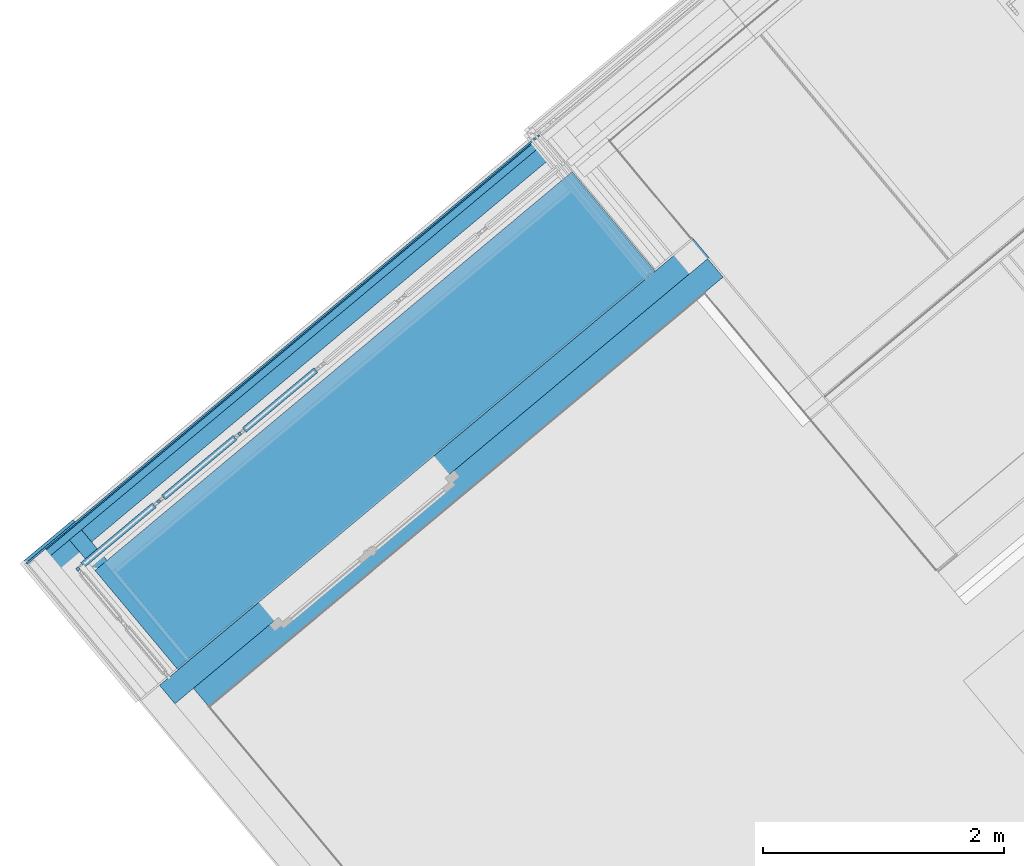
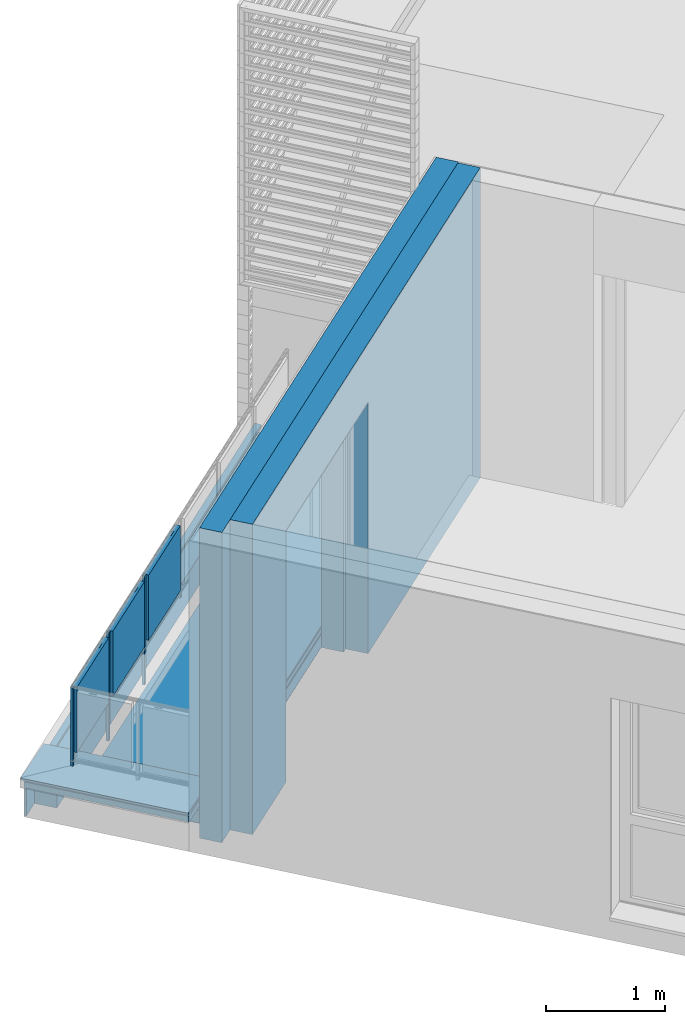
# One storey, part 18 of 50: 19 building element parts, 1 opening, 5 elements without a shape of their own.
"""IFC4 building model written with IfcOpenShell, lengths in metres."""

from ifc_helpers import new_model, entity, si_unit, converted_unit, derived_unit, direction, frame, origin_with_axes, place, context, subcontext, project, spatial, polygons, material, type_object, element, aggregate, save


model = new_model("IFC4")

# Units and contexts
model_context = context("Model", 3, precision=1e-05, world=origin_with_axes(), true_north=direction((0.0, 1.0)))
body_context = subcontext(model_context, "Body", "Model", "MODEL_VIEW")
ifc_project = project(units=[si_unit("LENGTHUNIT", "METRE"), si_unit("AREAUNIT", "SQUARE_METRE"), si_unit("VOLUMEUNIT", "CUBIC_METRE"), converted_unit("PLANEANGLEUNIT", "DEGREE", entity("IfcPlaneAngleMeasure", 0.0174532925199), si_unit("PLANEANGLEUNIT", "RADIAN"), dimensions=[0, 0, 0, 0, 0, 0, 0]), converted_unit("TIMEUNIT", "Year", entity("IfcTimeMeasure", 31556926.0), si_unit("TIMEUNIT", "SECOND"), dimensions=[0, 0, 1, 0, 0, 0, 0]), si_unit("MASSUNIT", "GRAM", prefix="KILO"), si_unit("THERMODYNAMICTEMPERATUREUNIT", "DEGREE_CELSIUS"), si_unit("LUMINOUSINTENSITYUNIT", "LUMEN"), si_unit("ENERGYUNIT", "JOULE", prefix="MEGA"), derived_unit("THERMALCONDUCTANCEUNIT", [(si_unit("POWERUNIT", "WATT"), 1), (si_unit("LENGTHUNIT", "METRE"), -1), (si_unit("THERMODYNAMICTEMPERATUREUNIT", "KELVIN"), -1)]), derived_unit("SPECIFICHEATCAPACITYUNIT", [(si_unit("ENERGYUNIT", "JOULE"), 1), (si_unit("MASSUNIT", "GRAM", prefix="KILO"), -1), (si_unit("THERMODYNAMICTEMPERATUREUNIT", "KELVIN"), -1)]), derived_unit("MASSDENSITYUNIT", [(si_unit("MASSUNIT", "GRAM", prefix="KILO"), 1), (si_unit("VOLUMEUNIT", "CUBIC_METRE"), -1)])], contexts=[model_context])

# Site, building, storey
site_placement = place(None, frame((-0.00153261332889, -0.00661245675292, 0.0), z_axis=(0.0, 0.0, 1.0), x_axis=(1.0, 0.0, 0.0)))
site = spatial("IfcSite", under=ifc_project, at=site_placement, Name="Gelände", CompositionType="ELEMENT")
building_placement = place(site_placement, origin_with_axes())
building = spatial("IfcBuilding", under=site, at=building_placement, Name="Gebäude", CompositionType="ELEMENT")
storey_placement = place(building_placement, frame((0.0, 0.0, 8.66), z_axis=(0.0, 0.0, 1.0), x_axis=(1.0, 0.0, 0.0)))
storey = spatial("IfcBuildingStorey", under=building, at=storey_placement, Name="DG2", CompositionType="ELEMENT", Elevation=8.66)

# Wall, building element parts
wall_type_1 = type_object("IfcWallType", Name="Bauteil - Attika Terrasse 1.DG 574 x 410", PredefinedType="NOTDEFINED")
wall_1_placement = place(storey_placement, frame((-7.57260314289, 18.0246792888, -0.2), z_axis=(0.0, 0.0, 1.0), x_axis=(-0.641209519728, 0.767365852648, 0.0)))
wall_1 = element("IfcWall", 1, at=wall_1_placement, inside=storey, type_object=wall_type_1, Name="Wand-004", PredefinedType="NOTDEFINED")
ifc_material_1 = material(Name="Brettschichtholz")
building_element_part_1_placement = place(wall_1_placement, origin_with_axes())
building_element_part_1 = element("IfcBuildingElementPart", 2, at=building_element_part_1_placement, material=ifc_material_1, Name="Brettschichtholz", PredefinedType="NOTDEFINED", context=body_context, shape_type="Tessellation", body=[
    polygons([(1.4745376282, -0.200000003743, 0.519224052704), (1.47453764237, -0.200000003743, 0.559999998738), (0.0, -0.200000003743, 0.559999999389), (0.0, -0.200000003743, 0.500000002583), (1.47453762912, -0.200000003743, 0.499999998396), (1.47453762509, -0.200000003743, 0.50905023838), (1.47453762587, -0.200000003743, 0.511361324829), (1.47453764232, -0.159999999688, 0.559999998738), (1.47453762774, 0.214999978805, 0.519224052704), (1.47453764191, 0.214999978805, 0.559999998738), (1.47453764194, 0.190124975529, 0.559999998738), (1.474537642, 0.130124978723, 0.559999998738), (1.47453764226, -0.100000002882, 0.559999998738), (0.0, -0.159999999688, 0.559999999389), (0.0, 0.130124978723, 0.559999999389), (0.0, 0.190124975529, 0.559999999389), (0.0, 0.214999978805, 0.559999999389), (0.0, 0.214999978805, 0.499999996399), (0.0, -0.100000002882, 0.559999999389), (1.47453762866, 0.214999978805, 0.499999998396), (1.47453762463, 0.214999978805, 0.50905023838), (1.47453762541, 0.214999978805, 0.511361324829)], [[[1, 2, 3, 4, 5, 6, 7]], [[8, 2, 1, 9, 10, 11, 12, 13]], [[2, 8, 14, 3]], [[15, 16, 17, 18, 4, 3, 14, 19]], [[18, 20, 5, 4]], [[21, 6, 5, 20]], [[22, 7, 6, 21]], [[9, 1, 7, 22]], [[10, 9, 22, 21, 20, 18, 17]], [[11, 10, 17, 16]], [[12, 11, 16, 15]], [[13, 12, 15, 19]], [[8, 13, 19, 14]]], closed=True),
])
ifc_material_2 = material(Name="EPS 1")
building_element_part_2_placement = place(wall_1_placement, origin_with_axes())
building_element_part_2 = element("IfcBuildingElementPart", 3, at=building_element_part_2_placement, material=ifc_material_2, Name="EPS 1", PredefinedType="NOTDEFINED", context=body_context, shape_type="Tessellation", body=[
    polygons([(1.05953765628, -0.3, 0.519224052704), (1.05953765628, -0.3, 0.559999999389), (0.0, -0.3, 0.560000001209), (0.0, -0.3, 0.335), (1.0595376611, -0.3, 0.335), (1.0595376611, -0.3, 0.488695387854), (1.0595376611, -0.3, 0.49100648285), (1.0595376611, -0.3, 0.498822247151), (1.05953765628, -0.3, 0.500000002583), (1.05953765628, -0.3, 0.50905023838), (1.05953765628, -0.3, 0.511361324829), (1.05953765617, -0.2, 0.559999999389), (1.05953765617, -0.2, 0.519224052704), (0.0, -0.2, 0.560000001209), (0.0, -0.2, 0.335), (1.05953766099, -0.2, 0.335), (1.05953766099, -0.2, 0.488695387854), (1.05953766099, -0.2, 0.49100648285), (1.05953766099, -0.2, 0.498822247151), (1.05953765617, -0.2, 0.500000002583), (1.05953765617, -0.2, 0.50905023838), (1.05953765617, -0.2, 0.511361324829)], [[[1, 2, 3, 4, 5, 6, 7, 8, 9, 10, 11]], [[12, 2, 1, 13]], [[2, 12, 14, 3]], [[4, 3, 14, 15]], [[16, 5, 4, 15]], [[17, 6, 5, 16]], [[18, 7, 6, 17]], [[19, 8, 7, 18]], [[20, 9, 8, 19]], [[21, 10, 9, 20]], [[22, 11, 10, 21]], [[13, 1, 11, 22]], [[12, 13, 22, 21, 20, 19, 18, 17, 16, 15, 14]]], closed=True),
])
ifc_material_3 = material(Name="Holzwerkstoff")
building_element_part_3_placement = place(wall_1_placement, origin_with_axes())
building_element_part_3 = element("IfcBuildingElementPart", 4, at=building_element_part_3_placement, material=ifc_material_3, Name="Holzwerkstoff", PredefinedType="NOTDEFINED", context=body_context, shape_type="Tessellation", body=[
    polygons([(1.49953764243, 0.239999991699, 0.587852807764), (1.44952269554, 0.189984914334, 0.586106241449), (0.0, 0.189984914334, 0.586106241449), (0.0, 0.239999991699, 0.587852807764), (1.49953764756, -0.33069508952, 0.587852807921), (1.44952269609, -0.330634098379, 0.58610624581), (1.3896626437, 0.130124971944, 0.58401588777), (0.0, 0.130124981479, 0.584015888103), (0.0, -0.100000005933, 0.575979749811), (0.0, -0.160110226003, 0.573880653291), (0.0, -0.329999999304, 0.567947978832), (0.0, -0.330698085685, 0.587938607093), (0.0, 0.239276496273, 0.608570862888), (1.49953469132, 0.239997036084, 0.587937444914), (1.49881415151, 0.239276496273, 0.608570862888), (1.49953469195, -0.330698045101, 0.587937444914), (0.929537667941, -0.329999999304, 0.567947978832), (1.09942743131, -0.330207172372, 0.573880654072), (1.15953766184, -0.330280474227, 0.575979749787), (1.38966264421, -0.33056110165, 0.58401588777), (1.15953766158, -0.100000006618, 0.575979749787), (1.09942743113, -0.160110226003, 0.573880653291)], [[[1, 2, 3, 4]], [[2, 1, 5, 6]], [[2, 7, 8, 3]], [[3, 8, 9, 10, 11, 12, 13, 4]], [[14, 1, 4, 13, 15]], [[1, 14, 16, 5]], [[17, 18, 19, 20, 6, 5, 16, 12, 11]], [[7, 2, 6, 20]], [[7, 21, 9, 8]], [[21, 22, 10, 9]], [[22, 17, 11, 10]], [[16, 15, 13, 12]], [[14, 15, 16]], [[17, 22, 18]], [[22, 21, 19, 18]], [[21, 7, 20, 19]]], closed=True),
])
aggregate(wall_1, [building_element_part_1, building_element_part_2, building_element_part_3])

wall_2_placement = place(storey_placement, frame((-8.38023068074, 18.991205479, -0.2), z_axis=(0.0, 0.0, 1.0), x_axis=(0.767365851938, 0.641209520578, 0.0)))
wall_2 = element("IfcWall", 5, at=wall_2_placement, inside=storey, type_object=wall_type_1, Name="Wand-005", PredefinedType="NOTDEFINED")
ifc_material_4 = material(Name="Zementputz")
building_element_part_4_placement = place(wall_2_placement, origin_with_axes())
building_element_part_4 = element("IfcBuildingElementPart", 6, at=building_element_part_4_placement, material=ifc_material_4, Name="Zementputz", PredefinedType="NOTDEFINED", context=body_context, shape_type="Tessellation", body=[
    polygons([(-0.199999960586, 0.214999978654, 0.499999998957), (-0.199999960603, 0.199999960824, 0.499999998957), (5.34520574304, 0.199999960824, 0.499999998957), (5.34520574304, 0.214999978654, 0.499999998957), (-0.199999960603, 0.199999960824, 0.498822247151), (-0.199999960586, 0.214999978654, 0.498822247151), (-0.199999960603, 0.199999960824, 0.49100648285), (-0.199999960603, 0.199999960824, 0.488695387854), (-0.199999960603, 0.199999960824, 0.335), (-0.199999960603, 0.199999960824, 0.2), (5.34520574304, 0.199999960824, 0.2), (5.34520574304, 0.214999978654, 0.2), (-0.199999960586, 0.214999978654, 0.2), (-0.199999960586, 0.214999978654, 0.335), (-0.199999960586, 0.214999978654, 0.488695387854), (-0.199999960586, 0.214999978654, 0.49100648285)], [[[1, 2, 3, 4]], [[5, 2, 1, 6]], [[2, 5, 7, 8, 9, 10, 11, 3]], [[12, 4, 3, 11]], [[6, 1, 4, 12, 13, 14, 15, 16]], [[5, 6, 16, 7]], [[7, 16, 15, 8]], [[8, 15, 14, 9]], [[9, 14, 13, 10]], [[10, 13, 12, 11]]], closed=True),
])
ifc_material_5 = material(Name="Vollholz")
building_element_part_5_placement = place(wall_2_placement, origin_with_axes())
building_element_part_5 = element("IfcBuildingElementPart", 7, at=building_element_part_5_placement, material=ifc_material_5, Name="Vollholz", PredefinedType="NOTDEFINED", context=body_context, shape_type="Tessellation", body=[
    polygons([(-0.189984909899, 0.189984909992, 0.586106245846), (-0.130124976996, 0.130124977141, 0.584015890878), (5.34520574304, 0.130124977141, 0.584015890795), (5.34520574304, 0.189984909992, 0.586106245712), (-0.13012497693, 0.189996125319, 0.584015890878), (-0.130124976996, 0.130124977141, 0.560000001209), (5.34520574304, 0.130124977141, 0.560000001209), (-0.130124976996, 0.130124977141, 0.575979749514), (-0.130124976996, 0.130124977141, 0.573880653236), (-0.130124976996, 0.130124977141, 0.567947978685), (5.34520574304, 0.190124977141, 0.560000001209), (-0.13012497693, 0.190124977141, 0.560000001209), (-0.13012497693, 0.190082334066, 0.567947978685), (-0.13012497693, 0.190050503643, 0.573880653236), (-0.13012497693, 0.190039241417, 0.575979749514)], [[[1, 2, 3, 4]], [[5, 2, 1]], [[6, 7, 3, 2, 8, 9, 10]], [[3, 7, 11, 4]], [[5, 1, 4, 11, 12, 13, 14, 15]], [[2, 5, 15, 8]], [[6, 12, 11, 7]], [[15, 14, 9, 8]], [[13, 10, 9, 14]], [[6, 10, 13, 12]]], closed=True),
])
building_element_part_6_placement = place(wall_2_placement, origin_with_axes())
building_element_part_6 = element("IfcBuildingElementPart", 8, at=building_element_part_6_placement, material=ifc_material_2, Name="EPS 1", PredefinedType="NOTDEFINED", context=body_context, shape_type="Tessellation", body=[
    polygons([(0.0, 0.19999996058, 0.499999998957), (-2.39910313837e-10, 2.39911202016e-10, 0.499999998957), (5.34520574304, 2.39911202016e-10, 0.499999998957), (5.34520574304, 0.19999996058, 0.499999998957), (-2.39910313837e-10, 2.39911202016e-10, 0.498822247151), (0.0, 0.19999996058, 0.498822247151), (-2.39910313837e-10, 2.39911202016e-10, 0.49100648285), (-2.39910313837e-10, 2.39911202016e-10, 0.488695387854), (-2.39910313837e-10, 2.39911202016e-10, 0.335), (-2.39910313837e-10, 2.39911202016e-10, 0.2), (5.34520574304, 2.39911202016e-10, 0.2), (5.34520574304, 0.19999996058, 0.2), (0.0, 0.19999996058, 0.2), (0.0, 0.19999996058, 0.335), (0.0, 0.19999996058, 0.488695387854), (0.0, 0.19999996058, 0.49100648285)], [[[1, 2, 3, 4]], [[5, 2, 1, 6]], [[2, 5, 7, 8, 9, 10, 11, 3]], [[11, 12, 4, 3]], [[6, 1, 4, 12, 13, 14, 15, 16]], [[5, 6, 16, 7]], [[7, 16, 15, 8]], [[8, 15, 14, 9]], [[9, 14, 13, 10]], [[10, 13, 12, 11]]], closed=True),
])
aggregate(wall_2, [building_element_part_4, building_element_part_5, building_element_part_6])

# Space
space_1_placement = place(storey_placement, frame((0.280300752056, 22.6307267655, 0.22), z_axis=(0.0, 0.0, 1.0), x_axis=(-0.641244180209, 0.767336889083, 0.0)))
space_1 = spatial("IfcSpace", under=storey, at=space_1_placement, CompositionType="ELEMENT", PredefinedType="NOTDEFINED")

# Wall, opening, building element parts
wall_type_2 = type_object("IfcWallType", Name="AW EG 420", PredefinedType="NOTDEFINED")
wall_3_placement = place(space_1_placement, frame((1.50124848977, 9.19442398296, -0.22), z_axis=(0.0, 0.0, 1.0), x_axis=(-4.51678739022e-05, -0.99999999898, 0.0)))
wall_3 = element("IfcWall", 9, at=wall_3_placement, inside=space_1, type_object=wall_type_2, Name="Wand-002", PredefinedType="NOTDEFINED")
opening_placement = place(wall_3_placement, frame((2.23567660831, 0.0, 0.22), z_axis=(0.0, 0.0, 1.0), x_axis=(1.0, 0.0, 0.0)))
element("IfcOpeningElement", 10, at=opening_placement, cuts=wall_3, Name="Tür-002", context=body_context, identifier="Reference", shape_type="Tessellation", body=[
    polygons([(-0.95, -0.215, 2.31), (0.95, -0.215, 2.31), (0.95, 2.84018525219, 2.31), (-0.95, 2.84018525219, 2.31), (0.95, -0.215, -0.22), (-0.95, -0.215, -0.22), (-1.0, -0.215, -0.22), (-1.0, -0.215, 2.36), (1.0, -0.215, 2.36), (1.0, -0.215, -0.22), (0.95, 2.84018525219, -0.22), (-0.95, 2.84018525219, -0.22), (1.0, -3.26018525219, -0.22), (-1.0, -3.26018525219, -0.22), (-1.0, -3.26018525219, 2.36), (1.0, -3.26018525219, 2.36)], [[[1, 2, 3, 4]], [[5, 2, 1, 6, 7, 8, 9, 10]], [[2, 5, 11, 3]], [[3, 11, 12, 4]], [[6, 1, 4, 12]], [[6, 12, 11, 5, 10, 13, 14, 7]], [[8, 7, 14, 15]], [[9, 8, 15, 16]], [[10, 9, 16, 13]], [[15, 14, 13, 16]]], closed=True),
])
building_element_part_7_placement = place(wall_3_placement, origin_with_axes())
building_element_part_7 = element("IfcBuildingElementPart", 11, at=building_element_part_7_placement, material=ifc_material_2, Name="EPS 1", PredefinedType="NOTDEFINED", context=body_context, shape_type="Tessellation", body=[
    polygons([(1.28567660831, -0.215, 0.0), (1.28567660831, -0.215, 2.53), (3.18567660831, -0.215, 2.53), (3.18567660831, -0.215, 0.0), (5.77520574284, -0.215, 0.0), (5.77520574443, -0.215, 1.66399832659), (5.97520574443, -0.215, 1.66399832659), (5.97520574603, -0.215, 0.0), (5.99020575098, -0.215, 0.0), (5.99020575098, -0.215, 3.18), (0.214999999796, -0.215, 3.18), (0.214999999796, -0.215, 0.0), (1.28567660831, -0.015, 0.0), (1.28567660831, -0.015, 2.53), (3.18567660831, -0.015, 2.53), (3.18567660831, -0.015, 0.0), (5.77520574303, -0.015, 0.0), (5.77520574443, -0.015, 1.66399832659), (5.97520574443, -0.015, 1.66399832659), (5.97520574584, -0.015, 0.0), (5.990205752, -0.015, 0.0), (5.990205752, -0.015, 3.18), (0.214999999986, -0.015, 3.18), (0.214999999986, -0.015, 0.0)], [[[1, 2, 3, 4, 5, 6, 7, 8, 9, 10, 11, 12]], [[2, 1, 13, 14]], [[3, 2, 14, 15]], [[4, 3, 15, 16]], [[4, 16, 17, 5]], [[6, 5, 17, 18]], [[7, 6, 18, 19]], [[8, 7, 19, 20]], [[8, 20, 21, 9]], [[22, 10, 9, 21]], [[10, 22, 23, 11]], [[12, 11, 23, 24]], [[13, 1, 12, 24]], [[14, 13, 24, 23, 22, 21, 20, 19, 18, 17, 16, 15]]], closed=True),
])
ifc_material_6 = material(Name="Stahlbeton Wand")
building_element_part_8_placement = place(wall_3_placement, origin_with_axes())
building_element_part_8 = element("IfcBuildingElementPart", 12, at=building_element_part_8_placement, material=ifc_material_6, Name="Stahlbeton Wand", PredefinedType="NOTDEFINED", context=body_context, shape_type="Tessellation", body=[
    polygons([(1.23567660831, -0.415, 0.0), (1.23567660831, -0.415, 2.58), (3.23567660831, -0.415, 2.58), (3.23567660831, -0.415, 0.0), (5.97520574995, -0.415, 0.0), (5.97520574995, -0.415, 3.18), (0.414999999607, -0.415, 3.18), (0.414999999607, -0.415, 0.0), (1.23567660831, -0.215, 0.0), (1.23567660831, -0.215, 2.58), (3.23567660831, -0.215, 2.58), (3.23567660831, -0.215, 0.0), (5.97520575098, -0.215, 0.0), (5.97520575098, -0.215, 3.18), (0.414999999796, -0.215, 3.18), (0.414999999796, -0.215, 0.0)], [[[1, 2, 3, 4, 5, 6, 7, 8]], [[2, 1, 9, 10]], [[3, 2, 10, 11]], [[4, 3, 11, 12]], [[4, 12, 13, 5]], [[6, 5, 13, 14]], [[14, 15, 7, 6]], [[7, 15, 16, 8]], [[9, 1, 8, 16]], [[10, 9, 16, 15, 14, 13, 12, 11]]], closed=True),
])
aggregate(wall_3, [building_element_part_7, building_element_part_8])

# Covering, building element parts
covering_type = type_object("IfcCoveringType", Name="Balkon vor Terrasse 220", PredefinedType="NOTDEFINED")
covering_placement = place(storey_placement, frame((-7.40951182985, 18.1414107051, 0.0), z_axis=(0.0, 0.0, 1.0), x_axis=(1.0, 0.0, 0.0)))
covering = element("IfcCovering", 13, at=covering_placement, inside=storey, type_object=covering_type, Name="Decke-005", PredefinedType="NOTDEFINED")
ifc_material_7 = material(Name="Platten")
building_element_part_9_placement = place(covering_placement, origin_with_axes())
building_element_part_9 = element("IfcBuildingElementPart", 14, at=building_element_part_9_placement, material=ifc_material_7, Name="Platten", PredefinedType="NOTDEFINED", context=body_context, shape_type="Tessellation", body=[
    polygons([(3.93863704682, 3.31066539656, 0.2), (3.93863704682, 3.31066539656, 0.22), (2.15487276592, 1.82015518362, 0.22), (2.15487276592, 1.82015518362, 0.2), (3.25925131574, 4.12371853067, 0.22), (3.25925131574, 4.12371853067, 0.2), (-0.689003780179, 0.82456351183, 0.22), (-0.0096181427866, 0.0115104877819, 0.22), (0.620141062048, 0.537736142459, 0.22), (0.629759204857, 0.52622565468, 0.22), (2.16449090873, 1.80864469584, 0.22), (2.16449090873, 1.80864469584, 0.2), (0.629759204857, 0.52622565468, 0.2), (0.620141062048, 0.537736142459, 0.2), (-0.0096181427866, 0.0115104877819, 0.2), (-0.689003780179, 0.82456351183, 0.2)], [[[1, 2, 3, 4]], [[5, 2, 1, 6]], [[2, 5, 7, 8, 9, 10, 11, 3]], [[3, 11, 12, 4]], [[6, 1, 4, 12, 13, 14, 15, 16]], [[5, 6, 16, 7]], [[15, 8, 7, 16]], [[9, 8, 15, 14]], [[13, 10, 9, 14]], [[12, 11, 10, 13]]], closed=True),
])
ifc_material_8 = material(Name="Luftschicht horizontal")
building_element_part_10_placement = place(covering_placement, origin_with_axes())
building_element_part_10 = element("IfcBuildingElementPart", 15, at=building_element_part_10_placement, material=ifc_material_8, Name="Luftschicht horizontal", PredefinedType="NOTDEFINED", context=body_context, shape_type="Tessellation", body=[
    polygons([(3.93863704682, 3.31066539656, 0.15), (3.93863704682, 3.31066539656, 0.2), (2.15487276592, 1.82015518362, 0.2), (2.15487276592, 1.82015518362, 0.15), (3.25925131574, 4.12371853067, 0.2), (3.25925131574, 4.12371853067, 0.15), (-0.689003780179, 0.82456351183, 0.2), (-0.0096181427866, 0.0115104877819, 0.2), (0.620141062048, 0.537736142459, 0.2), (0.629759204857, 0.52622565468, 0.2), (2.16449090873, 1.80864469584, 0.2), (2.16449090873, 1.80864469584, 0.15), (0.629759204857, 0.52622565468, 0.15), (0.620141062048, 0.537736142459, 0.15), (-0.0096181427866, 0.0115104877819, 0.15), (-0.689003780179, 0.82456351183, 0.15)], [[[1, 2, 3, 4]], [[5, 2, 1, 6]], [[2, 5, 7, 8, 9, 10, 11, 3]], [[3, 11, 12, 4]], [[6, 1, 4, 12, 13, 14, 15, 16]], [[5, 6, 16, 7]], [[15, 8, 7, 16]], [[9, 8, 15, 14]], [[13, 10, 9, 14]], [[12, 11, 10, 13]]], closed=True),
])
ifc_material_9 = material(Name="Sperrschicht")
building_element_part_11_placement = place(covering_placement, origin_with_axes())
building_element_part_11 = element("IfcBuildingElementPart", 16, at=building_element_part_11_placement, material=ifc_material_9, Name="Sperrschicht", PredefinedType="NOTDEFINED", context=body_context, shape_type="Tessellation", body=[
    polygons([(3.95976566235, 3.30877303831, 0.135), (3.95976566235, 3.30877303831, 0.15), (0.0, 0.0, 0.15), (0.0, 0.0, 0.135), (3.27076180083, 4.13333667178, 0.135), (3.27076180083, 4.13333667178, 0.15), (-0.689003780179, 0.82456351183, 0.15), (-0.689003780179, 0.82456351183, 0.135)], [[[1, 2, 3, 4]], [[5, 6, 2, 1]], [[3, 2, 6, 7]], [[4, 3, 7, 8]], [[4, 8, 5, 1]], [[8, 7, 6, 5]]], closed=True),
])
ifc_material_10 = material(Name="XPS")
building_element_part_12_placement = place(covering_placement, origin_with_axes())
building_element_part_12 = element("IfcBuildingElementPart", 17, at=building_element_part_12_placement, material=ifc_material_10, Name="XPS", PredefinedType="NOTDEFINED", context=body_context, shape_type="Tessellation", body=[
    polygons([(3.95976566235, 3.30877303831, 0.005), (3.95976566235, 3.30877303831, 0.135), (0.0, 0.0, 0.135), (0.0, 0.0, 0.005), (3.27076180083, 4.13333667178, 0.005), (3.27076180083, 4.13333667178, 0.135), (-0.689003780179, 0.82456351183, 0.135), (-0.689003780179, 0.82456351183, 0.005)], [[[1, 2, 3, 4]], [[5, 6, 2, 1]], [[3, 2, 6, 7]], [[4, 3, 7, 8]], [[4, 8, 5, 1]], [[8, 7, 6, 5]]], closed=True),
])
building_element_part_13_placement = place(covering_placement, origin_with_axes())
building_element_part_13 = element("IfcBuildingElementPart", 18, at=building_element_part_13_placement, material=ifc_material_9, Name="Sperrschicht", PredefinedType="NOTDEFINED", context=body_context, shape_type="Tessellation", body=[
    polygons([(0.0, 0.0, 0.0), (3.95976566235, 3.30877303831, 0.0), (3.95976566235, 3.30877303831, 0.005), (0.0, 0.0, 0.005), (-0.689003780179, 0.82456351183, 0.0), (3.27076180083, 4.13333667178, 0.0), (3.27076180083, 4.13333667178, 0.005), (-0.689003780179, 0.82456351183, 0.005)], [[[1, 2, 3, 4]], [[1, 5, 6, 2]], [[2, 6, 7, 3]], [[4, 3, 7, 8]], [[5, 1, 4, 8]], [[6, 5, 8, 7]]], closed=True),
])
aggregate(covering, [building_element_part_9, building_element_part_10, building_element_part_11, building_element_part_12, building_element_part_13])

# Space
space_2_placement = place(storey_placement, frame((-4.06558748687, 22.1637970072, 0.22), z_axis=(0.0, 0.0, 1.0), x_axis=(-0.767365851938, -0.641209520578, 0.0)))
space_2 = spatial("IfcSpace", under=storey, at=space_2_placement, CompositionType="ELEMENT", PredefinedType="NOTDEFINED")

# Railing, building element parts
railing_type = type_object("IfcRailingType", Name="Geländerart", PredefinedType="NOTDEFINED")
railing_placement = place(space_2_placement, frame((5.14520574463, 0.942485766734, 0.16), z_axis=(0.0, 0.0, 1.0), x_axis=(-0.767365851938, 0.641209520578, 0.0)))
railing = element("IfcRailing", 19, at=railing_placement, inside=space_2, type_object=railing_type, Name="Geländer - 001", PredefinedType="NOTDEFINED")
ifc_material_11 = material(Name="Aluminium")
building_element_part_14_placement = place(railing_placement, origin_with_axes())
building_element_part_14 = element("IfcBuildingElementPart", 20, at=building_element_part_14_placement, material=ifc_material_11, Name="Aluminium", PredefinedType="NOTDEFINED", context=body_context, shape_type="Tessellation", body=[
    polygons([(-0.828284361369, 0.854786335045, -0.3), (-0.847468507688, 0.838756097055, -0.3), (-0.847468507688, 0.838756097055, 0.82), (-0.828284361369, 0.854786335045, 0.82), (-0.812254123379, 0.835602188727, -0.3), (-0.831438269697, 0.819571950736, -0.3), (-0.831438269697, 0.819571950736, 0.82), (-0.812254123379, 0.835602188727, 0.82)], [[[1, 2, 3, 4]], [[1, 5, 6, 2]], [[2, 6, 7, 3]], [[4, 3, 7, 8]], [[5, 1, 4, 8]], [[6, 5, 8, 7]]], closed=True),
])
building_element_part_15_placement = place(railing_placement, origin_with_axes())
building_element_part_15 = element("IfcBuildingElementPart", 21, at=building_element_part_15_placement, material=ifc_material_11, Name="Aluminium", PredefinedType="NOTDEFINED", context=body_context, shape_type="Tessellation", body=[
    polygons([(-0.7163594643, 0.935278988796, 0.12), (-0.662643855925, 0.980163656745, 0.12), (-0.662643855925, 0.980163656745, 0.095), (-0.7163594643, 0.935278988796, 0.095), (-0.713153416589, 0.931442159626, 0.12), (-0.659437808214, 0.976326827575, 0.12), (-0.659437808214, 0.976326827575, 0.095), (-0.713153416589, 0.931442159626, 0.095)], [[[1, 2, 3, 4]], [[5, 6, 2, 1]], [[2, 6, 7, 3]], [[4, 3, 7, 8]], [[1, 4, 8, 5]], [[8, 7, 6, 5]]], closed=True),
    polygons([(-0.275737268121, 1.3034621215, 0.79), (-0.329452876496, 1.25857745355, 0.79), (-0.329452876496, 1.25857745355, 0.795), (-0.275737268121, 1.3034621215, 0.795), (-0.272531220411, 1.29962529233, 0.79), (-0.326246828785, 1.25474062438, 0.79), (-0.326246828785, 1.25474062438, 0.795), (-0.272531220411, 1.29962529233, 0.795)], [[[1, 2, 3, 4]], [[5, 6, 2, 1]], [[2, 6, 7, 3]], [[4, 3, 7, 8]], [[1, 4, 8, 5]], [[8, 7, 6, 5]]], closed=True),
    polygons([(-0.775462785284, 0.850055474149, 0.12), (-0.80752326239, 0.888423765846, 0.12), (-0.213427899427, 1.38484880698, 0.12), (-0.18136742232, 1.34648051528, 0.12), (-0.760115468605, 0.862879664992, 0.14), (-0.769733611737, 0.874390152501, 0.14), (-0.773570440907, 0.87118410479, 0.135), (-0.786394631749, 0.886531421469, 0.135), (-0.78255780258, 0.889737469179, 0.14), (-0.792175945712, 0.901247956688, 0.14), (-0.228775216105, 1.37202461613, 0.14), (-0.228775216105, 1.37202461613, 0.77), (-0.792175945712, 0.901247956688, 0.77), (-0.792175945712, 0.901247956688, 0.14), (-0.80752326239, 0.888423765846, 0.12), (-0.80752326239, 0.888423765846, 0.79), (-0.213427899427, 1.38484880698, 0.79), (-0.18136742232, 1.34648051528, 0.79), (-0.775462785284, 0.850055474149, 0.79), (-0.775462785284, 0.850055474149, 0.12), (-0.760115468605, 0.862879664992, 0.14), (-0.760115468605, 0.862879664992, 0.77), (-0.196714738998, 1.33365632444, 0.77), (-0.196714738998, 1.33365632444, 0.14), (-0.20633288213, 1.34516681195, 0.14), (-0.20633288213, 1.34516681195, 0.77), (-0.769733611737, 0.874390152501, 0.77), (-0.769733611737, 0.874390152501, 0.14), (-0.773570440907, 0.87118410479, 0.135), (-0.773570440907, 0.87118410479, 0.775), (-0.202496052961, 1.34837285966, 0.775), (-0.202496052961, 1.34837285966, 0.135), (-0.215320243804, 1.36372017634, 0.135), (-0.215320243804, 1.36372017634, 0.775), (-0.786394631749, 0.886531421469, 0.775), (-0.786394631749, 0.886531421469, 0.135), (-0.78255780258, 0.889737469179, 0.14), (-0.78255780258, 0.889737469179, 0.77), (-0.219157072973, 1.36051412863, 0.77), (-0.219157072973, 1.36051412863, 0.14)], [[[1, 2, 3, 4]], [[1, 5, 6, 7, 8, 9, 10, 2]], [[2, 10, 11, 12, 13, 14, 15, 16, 17, 3]], [[4, 3, 17, 18]], [[5, 1, 4, 18, 19, 20, 21, 22, 23, 24]], [[6, 5, 24, 25]], [[7, 6, 25, 26, 27, 28, 29, 30, 31, 32]], [[8, 7, 32, 33]], [[9, 8, 33, 34, 35, 36, 37, 38, 39, 40]], [[10, 9, 40, 11]], [[11, 40, 39, 12]], [[12, 39, 38, 13]], [[13, 38, 37, 14]], [[20, 15, 14, 37, 36, 29, 28, 21]], [[19, 16, 15, 20]], [[18, 17, 16, 19]], [[27, 22, 21, 28]], [[26, 23, 22, 27]], [[25, 24, 23, 26]], [[35, 30, 29, 36]], [[34, 31, 30, 35]], [[33, 32, 31, 34]]], closed=True),
])
building_element_part_16_placement = place(railing_placement, origin_with_axes())
building_element_part_16 = element("IfcBuildingElementPart", 22, at=building_element_part_16_placement, material=ifc_material_11, Name="Aluminium", PredefinedType="NOTDEFINED", context=body_context, shape_type="Tessellation", body=[
    polygons([(-0.141422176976, 1.39614818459, -0.3), (-0.15745241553, 1.41533233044, -0.3), (-0.15745241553, 1.41533233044, 0.82), (-0.141422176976, 1.39614818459, 0.82), (-0.160606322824, 1.38011794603, -0.3), (-0.176636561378, 1.39930209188, -0.3), (-0.176636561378, 1.39930209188, 0.82), (-0.160606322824, 1.38011794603, 0.82)], [[[1, 2, 3, 4]], [[1, 5, 6, 2]], [[2, 6, 7, 3]], [[4, 3, 7, 8]], [[5, 1, 4, 8]], [[6, 5, 8, 7]]], closed=True),
])
building_element_part_17_placement = place(railing_placement, origin_with_axes())
building_element_part_17 = element("IfcBuildingElementPart", 23, at=building_element_part_17_placement, material=ifc_material_11, Name="Aluminium", PredefinedType="NOTDEFINED", context=body_context, shape_type="Tessellation", body=[
    polygons([(-0.0455275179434, 1.49582498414, 0.12), (0.00818809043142, 1.54070965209, 0.12), (0.00818809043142, 1.54070965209, 0.095), (-0.0455275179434, 1.49582498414, 0.095), (-0.0423214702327, 1.49198815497, 0.12), (0.0113941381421, 1.53687282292, 0.12), (0.0113941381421, 1.53687282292, 0.095), (-0.0423214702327, 1.49198815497, 0.095)], [[[1, 2, 3, 4]], [[5, 6, 2, 1]], [[2, 6, 7, 3]], [[4, 3, 7, 8]], [[1, 4, 8, 5]], [[8, 7, 6, 5]]], closed=True),
    polygons([(0.395094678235, 1.86400811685, 0.79), (0.34137906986, 1.8191234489, 0.79), (0.34137906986, 1.8191234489, 0.795), (0.395094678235, 1.86400811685, 0.795), (0.398300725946, 1.86017128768, 0.79), (0.344585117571, 1.81528661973, 0.79), (0.344585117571, 1.81528661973, 0.795), (0.398300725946, 1.86017128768, 0.795)], [[[1, 2, 3, 4]], [[5, 6, 2, 1]], [[2, 6, 7, 3]], [[4, 3, 7, 8]], [[1, 4, 8, 5]], [[8, 7, 6, 5]]], closed=True),
    polygons([(-0.104630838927, 1.41060146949, 0.12), (-0.136691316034, 1.44896976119, 0.12), (0.45740404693, 1.94539480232, 0.12), (0.489464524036, 1.90702651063, 0.12), (-0.0892835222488, 1.42342566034, 0.14), (-0.0989016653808, 1.43493614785, 0.14), (-0.10273849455, 1.43173010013, 0.135), (-0.115562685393, 1.44707741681, 0.135), (-0.111725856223, 1.45028346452, 0.14), (-0.121343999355, 1.46179395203, 0.14), (0.442056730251, 1.93257061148, 0.14), (0.442056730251, 1.93257061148, 0.77), (-0.121343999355, 1.46179395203, 0.77), (-0.121343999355, 1.46179395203, 0.14), (-0.136691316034, 1.44896976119, 0.12), (-0.136691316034, 1.44896976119, 0.79), (0.45740404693, 1.94539480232, 0.79), (0.489464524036, 1.90702651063, 0.79), (-0.104630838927, 1.41060146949, 0.79), (-0.104630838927, 1.41060146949, 0.12), (-0.0892835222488, 1.42342566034, 0.14), (-0.0892835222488, 1.42342566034, 0.77), (0.474117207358, 1.89420231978, 0.77), (0.474117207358, 1.89420231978, 0.14), (0.464499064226, 1.90571280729, 0.14), (0.464499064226, 1.90571280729, 0.77), (-0.0989016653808, 1.43493614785, 0.77), (-0.0989016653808, 1.43493614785, 0.14), (-0.10273849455, 1.43173010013, 0.135), (-0.10273849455, 1.43173010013, 0.775), (0.468335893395, 1.908918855, 0.775), (0.468335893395, 1.908918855, 0.135), (0.455511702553, 1.92426617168, 0.135), (0.455511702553, 1.92426617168, 0.775), (-0.115562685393, 1.44707741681, 0.775), (-0.115562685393, 1.44707741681, 0.135), (-0.111725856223, 1.45028346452, 0.14), (-0.111725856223, 1.45028346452, 0.77), (0.451674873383, 1.92106012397, 0.77), (0.451674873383, 1.92106012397, 0.14)], [[[1, 2, 3, 4]], [[1, 5, 6, 7, 8, 9, 10, 2]], [[2, 10, 11, 12, 13, 14, 15, 16, 17, 3]], [[4, 3, 17, 18]], [[5, 1, 4, 18, 19, 20, 21, 22, 23, 24]], [[6, 5, 24, 25]], [[7, 6, 25, 26, 27, 28, 29, 30, 31, 32]], [[8, 7, 32, 33]], [[9, 8, 33, 34, 35, 36, 37, 38, 39, 40]], [[10, 9, 40, 11]], [[11, 40, 39, 12]], [[12, 39, 38, 13]], [[13, 38, 37, 14]], [[20, 15, 14, 37, 36, 29, 28, 21]], [[19, 16, 15, 20]], [[18, 17, 16, 19]], [[27, 22, 21, 28]], [[26, 23, 22, 27]], [[25, 24, 23, 26]], [[35, 30, 29, 36]], [[34, 31, 30, 35]], [[33, 32, 31, 34]]], closed=True),
])
building_element_part_18_placement = place(railing_placement, origin_with_axes())
building_element_part_18 = element("IfcBuildingElementPart", 24, at=building_element_part_18_placement, material=ifc_material_11, Name="Aluminium", PredefinedType="NOTDEFINED", context=body_context, shape_type="Tessellation", body=[
    polygons([(0.52940976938, 1.95669417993, -0.3), (0.513379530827, 1.97587832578, -0.3), (0.513379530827, 1.97587832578, 0.82), (0.52940976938, 1.95669417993, 0.82), (0.510225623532, 1.94066394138, -0.3), (0.494195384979, 1.95984808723, -0.3), (0.494195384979, 1.95984808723, 0.82), (0.510225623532, 1.94066394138, 0.82)], [[[1, 2, 3, 4]], [[1, 5, 6, 2]], [[2, 6, 7, 3]], [[4, 3, 7, 8]], [[5, 1, 4, 8]], [[6, 5, 8, 7]]], closed=True),
])
building_element_part_19_placement = place(railing_placement, origin_with_axes())
building_element_part_19 = element("IfcBuildingElementPart", 25, at=building_element_part_19_placement, material=ifc_material_11, Name="Aluminium", PredefinedType="NOTDEFINED", context=body_context, shape_type="Tessellation", body=[
    polygons([(0.625304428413, 2.05637097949, 0.12), (0.679020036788, 2.10125564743, 0.12), (0.679020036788, 2.10125564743, 0.095), (0.625304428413, 2.05637097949, 0.095), (0.628510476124, 2.05253415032, 0.12), (0.682226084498, 2.09741881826, 0.12), (0.682226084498, 2.09741881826, 0.095), (0.628510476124, 2.05253415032, 0.095)], [[[1, 2, 3, 4]], [[5, 6, 2, 1]], [[2, 6, 7, 3]], [[4, 3, 7, 8]], [[1, 4, 8, 5]], [[8, 7, 6, 5]]], closed=True),
    polygons([(1.06592662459, 2.42455411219, 0.79), (1.01221101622, 2.37966944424, 0.79), (1.01221101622, 2.37966944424, 0.795), (1.06592662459, 2.42455411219, 0.795), (1.0691326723, 2.42071728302, 0.79), (1.01541706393, 2.37583261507, 0.79), (1.01541706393, 2.37583261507, 0.795), (1.0691326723, 2.42071728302, 0.795)], [[[1, 2, 3, 4]], [[5, 6, 2, 1]], [[2, 6, 7, 3]], [[4, 3, 7, 8]], [[1, 4, 8, 5]], [[8, 7, 6, 5]]], closed=True),
    polygons([(0.566201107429, 1.97114746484, 0.12), (0.534140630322, 2.00951575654, 0.12), (1.12823599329, 2.50594079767, 0.12), (1.16029647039, 2.46757250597, 0.12), (0.581548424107, 1.98397165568, 0.14), (0.571930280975, 1.99548214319, 0.14), (0.568093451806, 1.99227609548, 0.135), (0.555269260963, 2.00762341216, 0.135), (0.559106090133, 2.01082945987, 0.14), (0.549487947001, 2.02233994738, 0.14), (1.11288867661, 2.49311660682, 0.14), (1.11288867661, 2.49311660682, 0.77), (0.549487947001, 2.02233994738, 0.77), (0.549487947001, 2.02233994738, 0.14), (0.534140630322, 2.00951575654, 0.12), (0.534140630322, 2.00951575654, 0.79), (1.12823599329, 2.50594079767, 0.79), (1.16029647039, 2.46757250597, 0.79), (0.566201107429, 1.97114746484, 0.79), (0.566201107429, 1.97114746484, 0.12), (0.581548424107, 1.98397165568, 0.14), (0.581548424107, 1.98397165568, 0.77), (1.14494915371, 2.45474831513, 0.77), (1.14494915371, 2.45474831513, 0.14), (1.13533101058, 2.46625880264, 0.14), (1.13533101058, 2.46625880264, 0.77), (0.571930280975, 1.99548214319, 0.77), (0.571930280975, 1.99548214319, 0.14), (0.568093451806, 1.99227609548, 0.135), (0.568093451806, 1.99227609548, 0.775), (1.13916783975, 2.46946485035, 0.775), (1.13916783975, 2.46946485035, 0.135), (1.12634364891, 2.48481216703, 0.135), (1.12634364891, 2.48481216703, 0.775), (0.555269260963, 2.00762341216, 0.775), (0.555269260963, 2.00762341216, 0.135), (0.559106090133, 2.01082945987, 0.14), (0.559106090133, 2.01082945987, 0.77), (1.12250681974, 2.48160611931, 0.77), (1.12250681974, 2.48160611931, 0.14)], [[[1, 2, 3, 4]], [[1, 5, 6, 7, 8, 9, 10, 2]], [[2, 10, 11, 12, 13, 14, 15, 16, 17, 3]], [[4, 3, 17, 18]], [[5, 1, 4, 18, 19, 20, 21, 22, 23, 24]], [[6, 5, 24, 25]], [[7, 6, 25, 26, 27, 28, 29, 30, 31, 32]], [[8, 7, 32, 33]], [[9, 8, 33, 34, 35, 36, 37, 38, 39, 40]], [[10, 9, 40, 11]], [[11, 40, 39, 12]], [[12, 39, 38, 13]], [[13, 38, 37, 14]], [[20, 15, 14, 37, 36, 29, 28, 21]], [[19, 16, 15, 20]], [[18, 17, 16, 19]], [[27, 22, 21, 28]], [[26, 23, 22, 27]], [[25, 24, 23, 26]], [[35, 30, 29, 36]], [[34, 31, 30, 35]], [[33, 32, 31, 34]]], closed=True),
])
aggregate(railing, [building_element_part_14, building_element_part_15, building_element_part_16, building_element_part_17, building_element_part_18, building_element_part_19])

save(model, "model.ifc")
